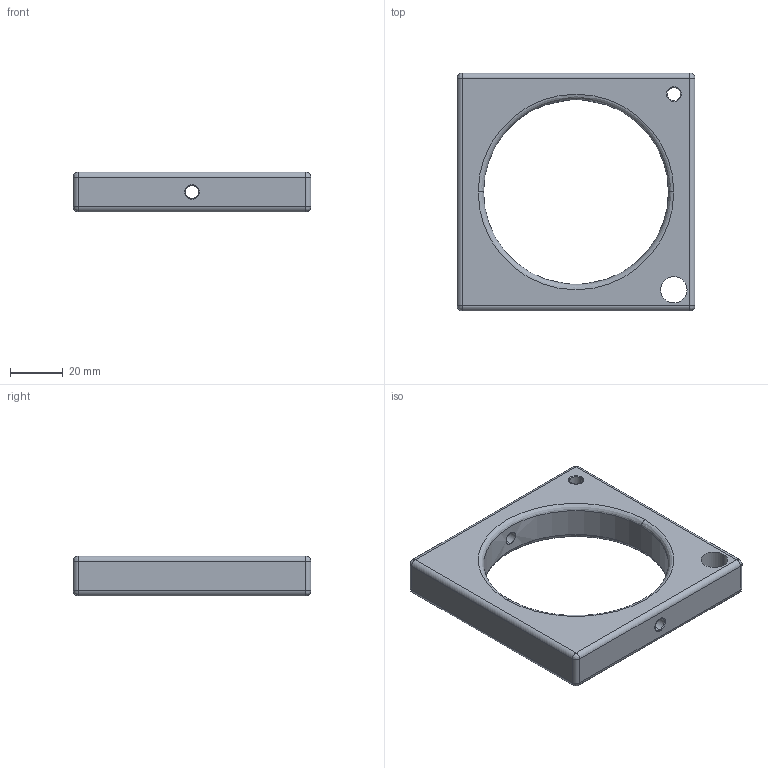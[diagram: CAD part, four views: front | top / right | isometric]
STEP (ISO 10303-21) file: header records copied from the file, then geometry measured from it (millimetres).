
FILE_DESCRIPTION(/* description */ (''),/* implementation_level */ '2;1');
FILE_NAME(/* name */ 'BasisTeil Apfelhalter Vogel',/* time_stamp */ '2026-05-06T09:22:14+02:00',/* author */ (''),/* organization */ (''),/* preprocessor_version */ 'ST-DEVELOPER v19.2',/* originating_system */ 'Rhino 8.30',/* authorisation */ '');
FILE_SCHEMA (('CONFIG_CONTROL_DESIGN'));
Length unit declared in the file: millimetre
Products named in the file (1): Document
Bounding box: 90 x 90 x 15 mm (x, y, z)
Volume: 60865.7 mm3; surface area: 16894.3 mm2
Topology: 1 solids, 1 shells, 47 faces, 101 edges, 58 vertices
Faces by surface type: cylinder 21, bspline 20, plane 6
Full cylindrical faces by diameter (mm): 70 x1
Entity records: 1847 total; most frequent: CARTESIAN_POINT 817, ORIENTED_EDGE 202, DIRECTION 155, EDGE_CURVE 101, AXIS2_PLACEMENT_3D 91, TRIMMED_CURVE 61, CIRCLE 61, EDGE_LOOP 57
